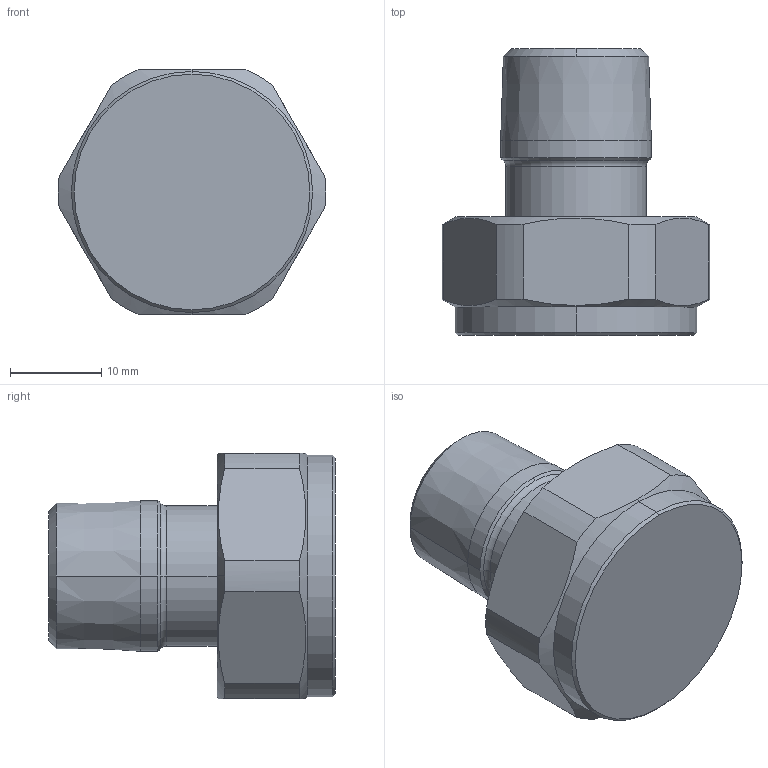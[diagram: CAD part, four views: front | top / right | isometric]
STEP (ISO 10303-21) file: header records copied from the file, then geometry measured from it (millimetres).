
FILE_DESCRIPTION (( 'STEP AP203' ), '1' );
FILE_NAME ('443810.STEP', '2021-07-06T13:02:52', ( '' ), ( '' ), 'SwSTEP 2.0', 'SolidWorks 2016', '' );
FILE_SCHEMA (( 'CONFIG_CONTROL_DESIGN' ));
Length unit declared in the file: millimetre
Products named in the file (1): 443810
Bounding box: 29.4 x 31.5 x 27 mm (x, y, z)
Volume: 11525.8 mm3; surface area: 3245 mm2
Topology: 1 solids, 1 shells, 35 faces, 88 edges, 56 vertices
Faces by surface type: cone 12, cylinder 12, plane 9, torus 2
Entity records: 1241 total; most frequent: CARTESIAN_POINT 310, DIRECTION 190, ORIENTED_EDGE 176, EDGE_CURVE 88, AXIS2_PLACEMENT_3D 80, VERTEX_POINT 56, CIRCLE 44, EDGE_LOOP 36
